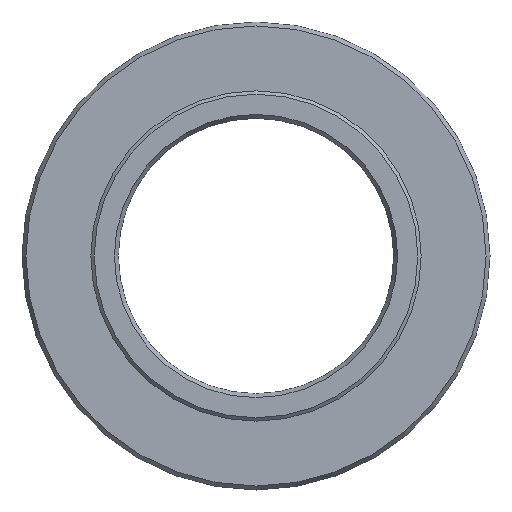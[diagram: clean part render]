
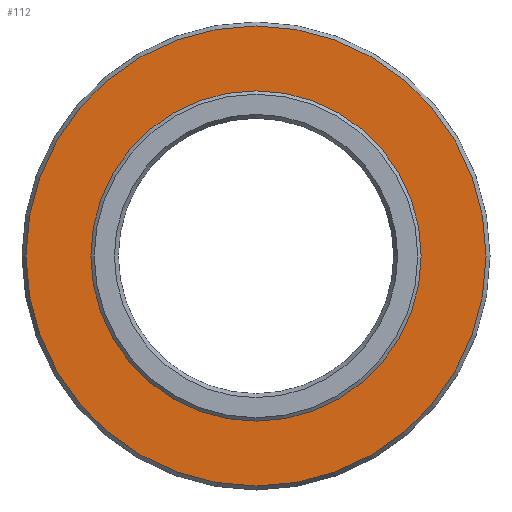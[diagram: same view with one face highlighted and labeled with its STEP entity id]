
A CAD part, left-side view. The second image highlights one B-rep face of the part: STEP entity #112.
In plain terms, the highlighted planar face has unit normal (-1, 0, 0).
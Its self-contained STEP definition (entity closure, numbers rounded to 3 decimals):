
#107=PLANE('',#279);
#112=ADVANCED_FACE('',(#131,#132),#107,.T.);
#131=FACE_BOUND('',#163,.T.);
#132=FACE_BOUND('',#164,.T.);
#163=EDGE_LOOP('',(#195));
#164=EDGE_LOOP('',(#196));
#195=ORIENTED_EDGE('',*,*,#243,.T.);
#196=ORIENTED_EDGE('',*,*,#244,.T.);
#227=VERTEX_POINT('',#379);
#228=VERTEX_POINT('',#381);
#243=EDGE_CURVE('',#227,#227,#259,.T.);
#244=EDGE_CURVE('',#228,#228,#260,.T.);
#259=CIRCLE('',#277,33.423);
#260=CIRCLE('',#278,24.);
#277=AXIS2_PLACEMENT_3D('',#378,#314,#315);
#278=AXIS2_PLACEMENT_3D('',#380,#316,#317);
#279=AXIS2_PLACEMENT_3D('',#382,#318,#319);
#314=DIRECTION('',(-1.,0.,0.));
#315=DIRECTION('',(0.,0.,1.));
#316=DIRECTION('',(1.,0.,0.));
#317=DIRECTION('',(0.,0.,-1.));
#318=DIRECTION('',(-1.,0.,0.));
#319=DIRECTION('',(0.,0.,1.));
#378=CARTESIAN_POINT('',(0.,0.,0.));
#379=CARTESIAN_POINT('',(0.,0.,33.423));
#380=CARTESIAN_POINT('',(0.,0.,0.));
#381=CARTESIAN_POINT('',(0.,0.,-24.));
#382=CARTESIAN_POINT('',(0.,34.,0.));
